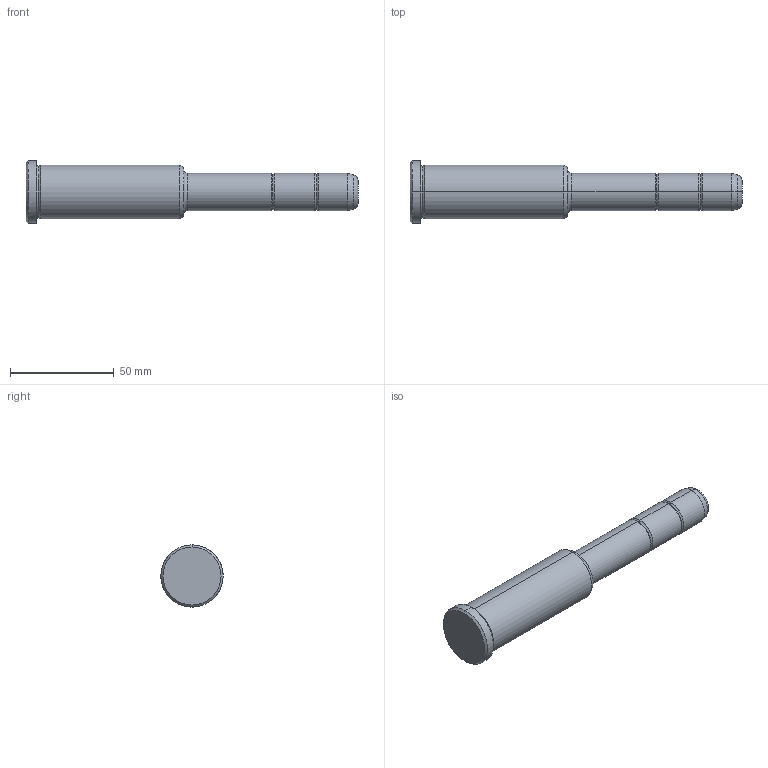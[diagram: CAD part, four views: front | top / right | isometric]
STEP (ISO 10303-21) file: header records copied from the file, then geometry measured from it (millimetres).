
FILE_DESCRIPTION(('CATIA V5 STEP Exchange'),'2;1');
FILE_NAME('C:\Users\Utente\Desktop\IO LAVORO\3D X SITO CF\X SITO\PLASTICA\351\351-18X76X160.stp','2021-08-27T11:17:27+00:00',('none'),('none'),'CATIA Version 5 Release 20 GA (IN-10)','CATIA V5 STEP AP203','none');
FILE_SCHEMA(('CONFIG_CONTROL_DESIGN'));
Length unit declared in the file: millimetre
Products named in the file (1): 351-18X76X160
Bounding box: 160 x 30 x 30 mm (x, y, z)
Volume: 62173.5 mm3; surface area: 12204.1 mm2
Topology: 1 solids, 1 shells, 36 faces, 102 edges, 70 vertices
Faces by surface type: torus 16, cylinder 10, cone 6, plane 4
Entity records: 1292 total; most frequent: CARTESIAN_POINT 321, ORIENTED_EDGE 204, DIRECTION 166, AXIS2_PLACEMENT_3D 115, EDGE_CURVE 102, CIRCLE 78, VERTEX_POINT 70, EDGE_LOOP 38
